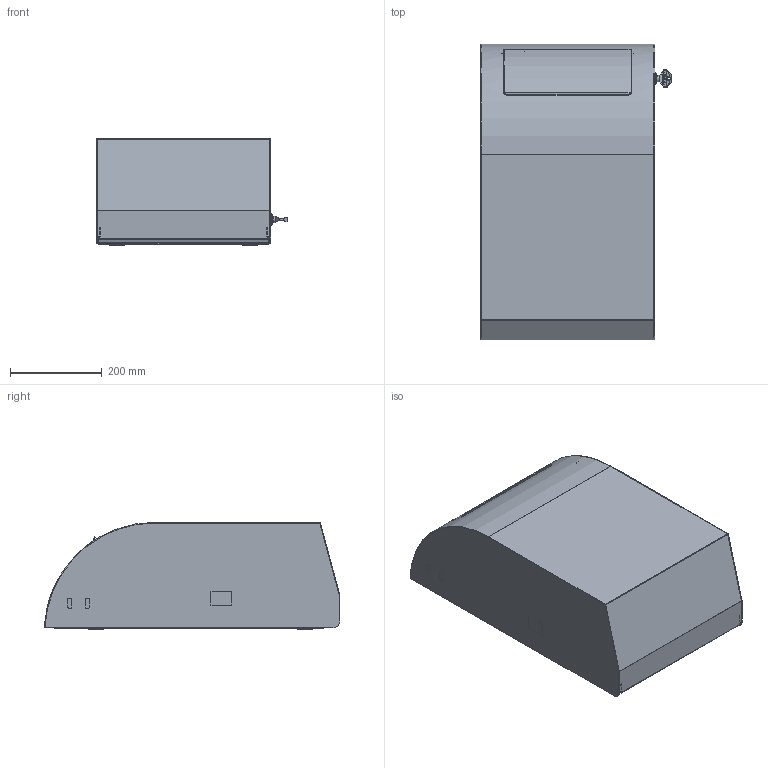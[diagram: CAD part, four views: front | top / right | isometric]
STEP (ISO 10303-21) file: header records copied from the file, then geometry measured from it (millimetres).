
FILE_DESCRIPTION(/* description */ ('Bagplade'),/* implementation_level */ '2;1');
FILE_NAME(/* name */ 'X:\Standardvarer\292 Dan Dryer Design Affaldsbeholder kompakt 30L\Tegninger\Public 3D files\292 Dan Dryer Design Affaldsbeholder kompakt 30L.stp',/* time_stamp */ '2019-05-06T11:27:47+02:00',/* author */ ('Dan Dryer'),/* organization */ (''),/* preprocessor_version */ 'ST-DEVELOPER v16.1',/* originating_system */ 'Autodesk Inventor 2016',/* authorisation */ '');
FILE_SCHEMA (('AUTOMOTIVE_DESIGN { 1 0 10303 214 3 1 1 }'));
Length unit declared in the file: millimetre
Products named in the file (29): DD-081216-091; DD-081216-092; DD-081216-093; DD-081216-090; DD-081216-011; DD-081216-013; DD-081216-012; DD-291107-50; DD-081216-096; DD-081216-014; DD-081216-016; DD-081216-010; DD-081216-071; DD-081216-072; DD-081216-070; 28200-1; 28201-1; 28201-3; 28202; DD-081216-042; DD-081216-043; DD-081216-041; DD-081216-044; DD-081216-040; 28200-2; 28200; 28201-2; 28201; 292 Dan Dryer Design Affaldsbeholder kompakt 30L eksport
Assembly tree (32 placements, depth 3):
  292 Dan Dryer Design Affaldsbeholder kompakt 30L eksport
    DD-081216-090
      DD-081216-091
      DD-081216-092
      DD-081216-093
    DD-081216-010
      DD-081216-011
      DD-081216-013
      DD-081216-012
      DD-291107-50
      DD-081216-096  x2
      DD-081216-014
      DD-081216-016
    DD-081216-070
      DD-081216-071
      DD-081216-072  x2
    28200
      28200-2
      28200-1
    28201
      28201-2
      28201-1
      28201-3
    28202
    DD-081216-040
      DD-081216-042
      DD-081216-043  x2
      DD-081216-041  x2
      DD-081216-044
Bounding box: 416.8 x 644.97 x 234.18 mm (x, y, z)
Volume: 2069119 mm3; surface area: 3285283.4 mm2
Topology: 26 solids, 28 shells, 1145 faces, 2920 edges, 1863 vertices
Faces by surface type: plane 668, cylinder 387, bspline 40, torus 24, cone 22, sphere 4
Full cylindrical faces by diameter (mm): 4.2 x1, 5.5 x2, 6 x6, 7 x2, 8.2 x4, 8.3 x1, 8.376 x2, 9.9 x1, 10 x1, 10.2 x1, 12.2 x5, 12.8 x1, 13.5 x2, 15.2 x1, 16 x1, 16.1 x1, 19 x1, 19.8 x1, 20 x2, 22 x2, 25 x1, 28 x1
Entity records: 34040 total; most frequent: CARTESIAN_POINT 8131, DIRECTION 5279, ORIENTED_EDGE 5071, EDGE_CURVE 2538, AXIS2_PLACEMENT_3D 1804, LINE 1671, VECTOR 1671, VERTEX_POINT 1665
